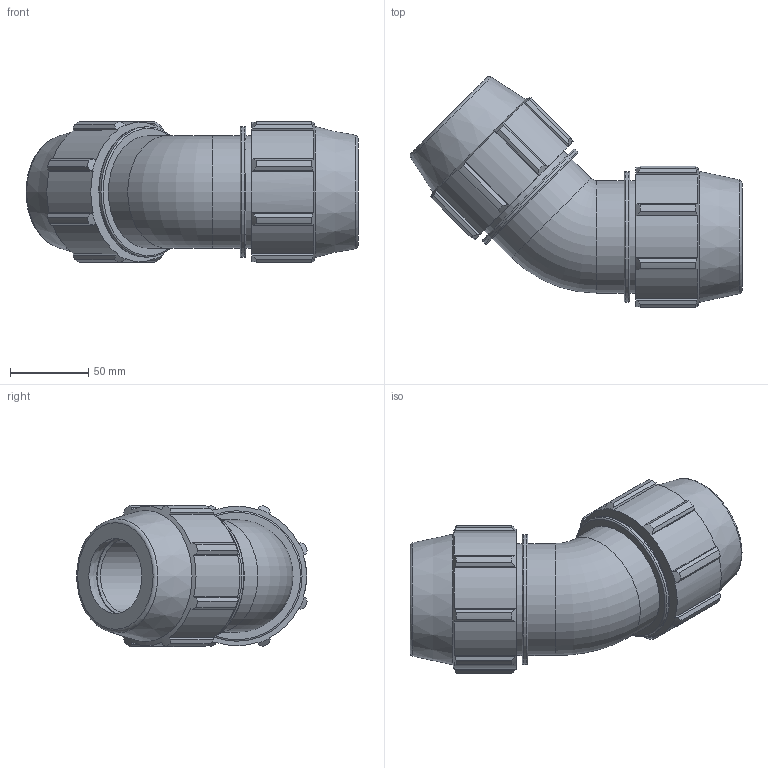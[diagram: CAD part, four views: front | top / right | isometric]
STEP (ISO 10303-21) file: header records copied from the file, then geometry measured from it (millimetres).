
FILE_DESCRIPTION(/* description */ ('PLASSON 45° ELBOW 1 1/2'''' - 1 1/2'''''),/* implementation_level */ '2;1');
FILE_NAME(/* name */ 'C:\Dropbox\KIMPROJECTS-Inventor 2019\99-16-3568-Processing Inch\ASTM Compression 2021\0706M0\0706M0015.ipt.stp',/* time_stamp */ '2021-08-26T12:32:13+03:00',/* author */ ('KIM'),/* organization */ (''),/* preprocessor_version */ 'ST-DEVELOPER v17.2',/* originating_system */ 'Autodesk Inventor 2019',/* authorisation */ '');
FILE_SCHEMA (('AUTOMOTIVE_DESIGN { 1 0 10303 214 3 1 1 }'));
Length unit declared in the file: inch
Products named in the file (1): 0706M0015
Bounding box: 212.58 x 147.77 x 90.34 mm (x, y, z)
Volume: 729942 mm3; surface area: 107325.8 mm2
Topology: 1 solids, 1 shells, 146 faces, 431 edges, 295 vertices
Faces by surface type: plane 74, cylinder 40, cone 24, torus 8
Full cylindrical faces by diameter (mm): 48.1 x2, 72.009 x4, 83.53 x2
Entity records: 5103 total; most frequent: CARTESIAN_POINT 1001, ORIENTED_EDGE 862, DIRECTION 820, EDGE_CURVE 431, AXIS2_PLACEMENT_3D 306, VERTEX_POINT 295, LINE 208, VECTOR 208
